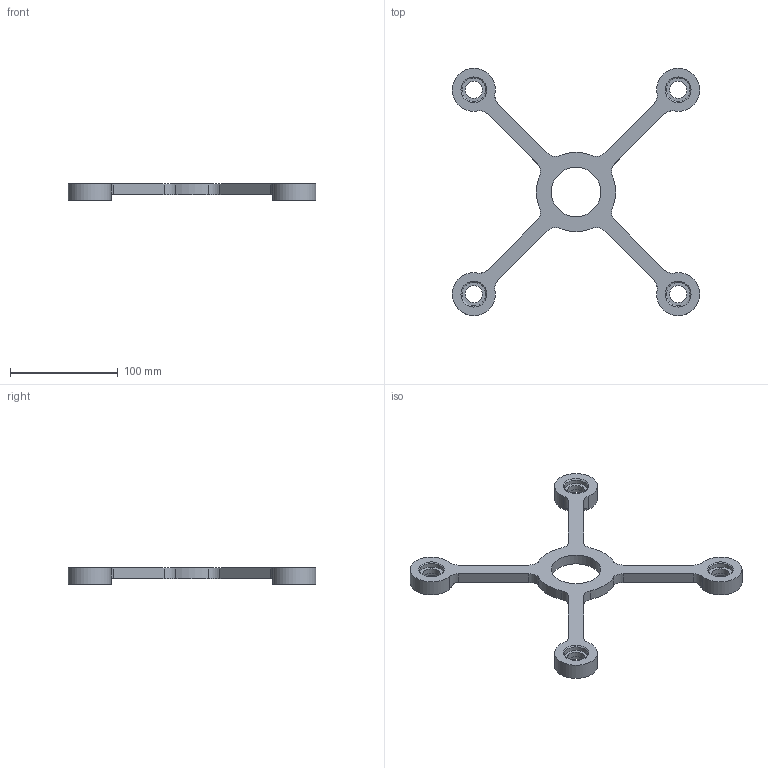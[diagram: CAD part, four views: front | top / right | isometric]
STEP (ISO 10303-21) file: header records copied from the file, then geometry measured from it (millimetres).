
FILE_DESCRIPTION(/* description */ ('','CAx-IF Rec.Pracs.---Representation and Presentation of Product Manufacturing Information (PMI)---4.0---2014-10-13'),/* implementation_level */ '2;1');
FILE_NAME(/* name */ '01 base 230x230 x2.step',/* time_stamp */ '2025-03-16T15:34:51+01:00',/* author */ (''),/* organization */ (''),/* preprocessor_version */ 'ST-DEVELOPER v20',/* originating_system */ 'Autodesk Translation Framework v13.20.0.188',/* authorisation */ '');
FILE_SCHEMA (('AP242_MANAGED_MODEL_BASED_3D_ENGINEERING_MIM_LF { 1 0 10303 442 1 1 4 }'));
Length unit declared in the file: millimetre
Products named in the file (1): base
Bounding box: 229.93 x 229.93 x 15 mm (x, y, z)
Volume: 127694.4 mm3; surface area: 42442.7 mm2
Topology: 1 solids, 1 shells, 67 faces, 163 edges, 106 vertices
Faces by surface type: cylinder 37, plane 22, cone 4, torus 4
Full cylindrical faces by diameter (mm): 16 x4, 22 x8, 46 x1
Entity records: 2120 total; most frequent: CARTESIAN_POINT 417, DIRECTION 381, ORIENTED_EDGE 326, EDGE_CURVE 163, AXIS2_PLACEMENT_3D 158, VERTEX_POINT 106, CIRCLE 90, EDGE_LOOP 85
